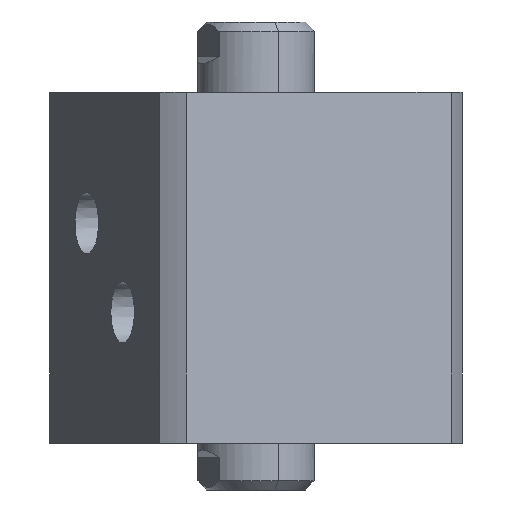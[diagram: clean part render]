
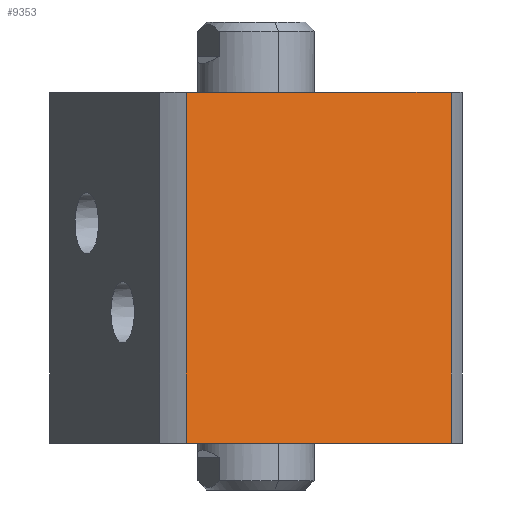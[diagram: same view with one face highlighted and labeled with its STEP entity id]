
A CAD part, left-side view. The second image highlights one B-rep face of the part: STEP entity #9353.
In plain terms, the highlighted planar face has unit normal (-0.924, -0.383, 0) as drawn and (1, 0, 0) by its records, which use the part's own axes.
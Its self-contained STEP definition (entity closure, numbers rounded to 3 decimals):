
#24 = LINE ( 'NONE', #9294, #6103 ) ;
#122 = CARTESIAN_POINT ( 'NONE',  ( 35., -30.615, -225. ) ) ;
#133 = ORIENTED_EDGE ( 'NONE', *, *, #8006, .F. ) ;
#156 = DIRECTION ( 'NONE',  ( 0., -1., 0. ) ) ;
#180 = CARTESIAN_POINT ( 'NONE',  ( 35., 30.615, 0. ) ) ;
#925 = PLANE ( 'NONE',  #7831 ) ;
#957 = EDGE_CURVE ( 'NONE', #1647, #8797, #9918, .T. ) ;
#1289 = CARTESIAN_POINT ( 'NONE',  ( 35., 35., 75. ) ) ;
#1647 = VERTEX_POINT ( 'NONE', #6607 ) ;
#3243 = ORIENTED_EDGE ( 'NONE', *, *, #957, .T. ) ;
#3493 = VECTOR ( 'NONE', #7330, 1000. ) ;
#3911 = FACE_OUTER_BOUND ( 'NONE', #7983, .T. ) ;
#3963 = EDGE_CURVE ( 'NONE', #7226, #9210, #10055, .T. ) ;
#4131 = DIRECTION ( 'NONE',  ( 0., 1., 0. ) ) ;
#4479 = DIRECTION ( 'NONE',  ( 0., 0., -1. ) ) ;
#4488 = ORIENTED_EDGE ( 'NONE', *, *, #3963, .F. ) ;
#4889 = DIRECTION ( 'NONE',  ( -1., 0., 0. ) ) ;
#5094 = EDGE_CURVE ( 'NONE', #1647, #7226, #9657, .T. ) ;
#5574 = ORIENTED_EDGE ( 'NONE', *, *, #5094, .F. ) ;
#5665 = CARTESIAN_POINT ( 'NONE',  ( 35., 35., 0. ) ) ;
#5693 = VECTOR ( 'NONE', #4131, 1000. ) ;
#6103 = VECTOR ( 'NONE', #4479, 1000. ) ;
#6607 = CARTESIAN_POINT ( 'NONE',  ( 35., -30.615, 0. ) ) ;
#7226 = VERTEX_POINT ( 'NONE', #10093 ) ;
#7280 = CARTESIAN_POINT ( 'NONE',  ( 35., 35., 75. ) ) ;
#7330 = DIRECTION ( 'NONE',  ( 0., 1., 0. ) ) ;
#7831 = AXIS2_PLACEMENT_3D ( 'NONE', #7280, #4889, #156 ) ;
#7911 = CARTESIAN_POINT ( 'NONE',  ( 35., 30.615, 75. ) ) ;
#7983 = EDGE_LOOP ( 'NONE', ( #5574, #3243, #133, #4488 ) ) ;
#8006 = EDGE_CURVE ( 'NONE', #9210, #8797, #24, .T. ) ;
#8797 = VERTEX_POINT ( 'NONE', #180 ) ;
#9210 = VERTEX_POINT ( 'NONE', #7911 ) ;
#9294 = CARTESIAN_POINT ( 'NONE',  ( 35., 30.615, -225. ) ) ;
#9353 = ADVANCED_FACE ( 'NONE', ( #3911 ), #925, .F. ) ;
#9399 = VECTOR ( 'NONE', #9728, 1000. ) ;
#9657 = LINE ( 'NONE', #122, #9399 ) ;
#9728 = DIRECTION ( 'NONE',  ( 0., 0., 1. ) ) ;
#9918 = LINE ( 'NONE', #5665, #3493 ) ;
#10055 = LINE ( 'NONE', #1289, #5693 ) ;
#10093 = CARTESIAN_POINT ( 'NONE',  ( 35., -30.615, 75. ) ) ;
